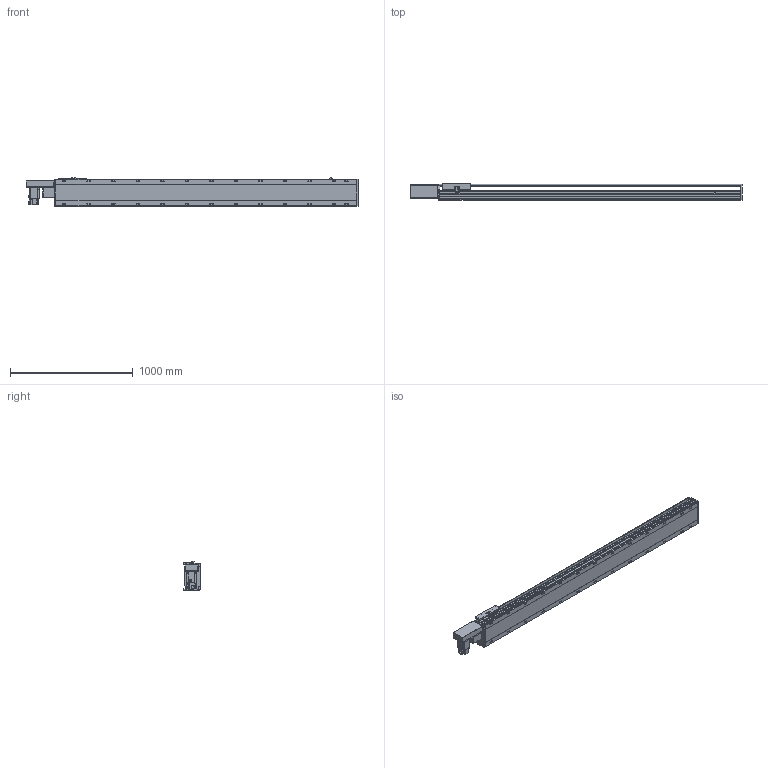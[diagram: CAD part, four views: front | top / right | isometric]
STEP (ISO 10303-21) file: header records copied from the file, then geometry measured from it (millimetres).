
FILE_DESCRIPTION(/* description */ ('STEP AP214'),/* implementation_level */ '2;1');
FILE_NAME(/* name */ 'PBS220-P40-S2100-R-T75-C1-N(0)',/* time_stamp */ '2022-06-11T10:02:23+02:00',/* author */ ('License CC BY-ND 4.0'),/* organization */ ('CADENAS'),/* preprocessor_version */ 'ST-DEVELOPER v18.102',/* originating_system */ 'PARTsolutions',/* authorisation */ ' ');
FILE_SCHEMA (('AUTOMOTIVE_DESIGN {1 0 10303 214 3 1 1}'));
Length unit declared in the file: millimetre
Products named in the file (7): PBS220-P40-S2100-R-T75-C1-N(0); PBS220_sensor; PBS220_plant; PBS220_sliser; T75-p1; PBS220T-R_motors; PBS220-S2100()_body
Assembly tree (8 placements, depth 2):
  PBS220-P40-S2100-R-T75-C1-N(0)
    PBS220_sensor  x3
    PBS220_plant
    PBS220_sliser
    T75-p1
    PBS220T-R_motors
    PBS220-S2100()_body
Bounding box: 2706 x 134 x 238.5 mm (x, y, z)
Volume: 36269215.9 mm3; surface area: 3361706.3 mm2
Topology: 8 solids, 8 shells, 974 faces, 2536 edges, 1648 vertices
Faces by surface type: plane 618, cylinder 306, cone 50
Full cylindrical faces by diameter (mm): 2.013 x4, 4.5 x14, 4.917 x4, 6 x7, 6.647 x8, 8 x10, 8.376 x26, 8.5 x26, 10 x6, 14 x26, 38 x2, 40 x1, 70 x1
Entity records: 27189 total; most frequent: CARTESIAN_POINT 4822, DIRECTION 4725, ORIENTED_EDGE 4286, EDGE_CURVE 2143, AXIS2_PLACEMENT_3D 1685, VERTEX_POINT 1496, LINE 1355, VECTOR 1355
